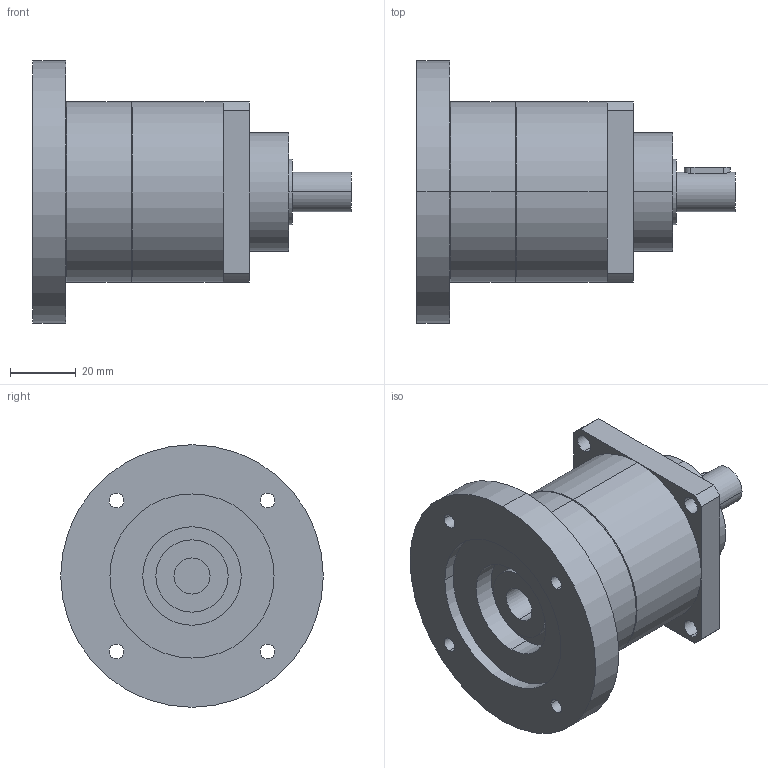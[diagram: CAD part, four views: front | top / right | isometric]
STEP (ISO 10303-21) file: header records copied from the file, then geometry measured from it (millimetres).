
FILE_DESCRIPTION(('CoCreate Modeling STEP Export'),'2;1');
FILE_NAME('GPT55_ig-3-4-5-7-10_12_B5A_11_P13.stp','2014-08-25T14:31:20',(''),(''),'CoCreate Modeling STEP processor for AP214 (Solid Model)','CoCreate Modeling 16.00C 25-Feb-2009 (C) Parametric Technology GmbH','');
FILE_SCHEMA(('AUTOMOTIVE_DESIGN { 1 0 10303 214 1 1 1 1 }'));
Length unit declared in the file: millimetre
Products named in the file (2): GPT55_ig-3-4-5-7-10_12_B5A_11_P13
Assembly tree (1 placements, depth 2):
  GPT55_ig-3-4-5-7-10_12_B5A_11_P13
    GPT55_ig-3-4-5-7-10_12_B5A_11_P13
Bounding box: 97 x 80 x 80 mm (x, y, z)
Volume: 188987.9 mm3; surface area: 29230 mm2
Topology: 1 solids, 1 shells, 71 faces, 183 edges, 124 vertices
Faces by surface type: cylinder 44, plane 23, cone 4
Entity records: 2283 total; most frequent: CARTESIAN_POINT 668, ORIENTED_EDGE 366, DIRECTION 278, EDGE_CURVE 183, VERTEX_POINT 124, AXIS2_PLACEMENT_3D 104, EDGE_LOOP 97, FACE_OUTER_BOUND 71
